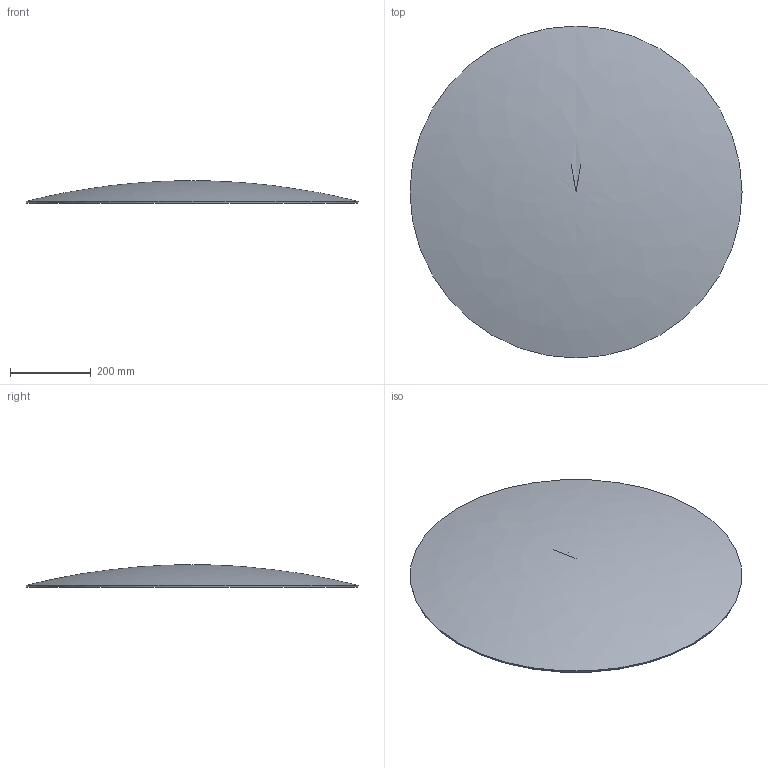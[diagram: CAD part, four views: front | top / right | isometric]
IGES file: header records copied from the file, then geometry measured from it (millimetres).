
Start section: Data from Parasolid IGES Translator 20.0.26, Copyright(c) 2006 Siemens P LM Software. All Rights Reserved.
Global section: file name: 48532.igs; native system: By Siemens PLM Incorporated; preprocessor: XPlus GENERIC/IGES 20.0.26; author: Noname; organization: Noname; date: 20210125.173131; units: millimetre
Bounding box: 820 x 820 x 55.71 mm (x, y, z)
Surface area: 1082159.2 mm2 (no closed solid volume)
Topology: 0 solids, 0 shells, 3 faces, 16 edges, 14 vertices
Faces by surface type: revolution 3
